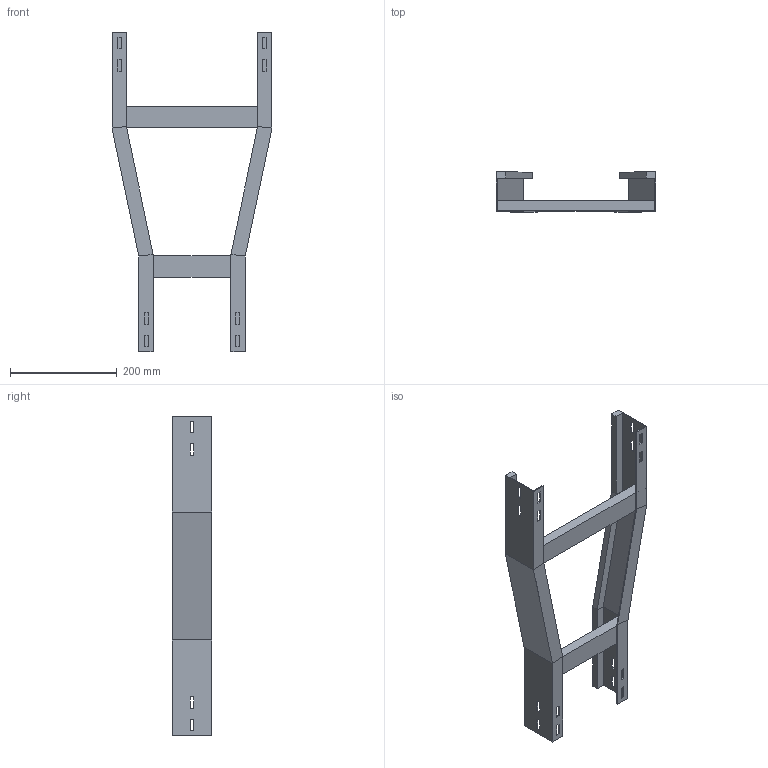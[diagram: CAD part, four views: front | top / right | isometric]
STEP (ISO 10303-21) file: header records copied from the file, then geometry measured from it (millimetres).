
FILE_DESCRIPTION (( 'STEP AP214' ), '1' );
FILE_NAME ('B2X20B2C300XX.step', '2025-09-02T17:13:50', ( '' ), ( '' ), 'SwSTEP 2.0', 'SolidWorks 2023', '' );
FILE_SCHEMA (( 'AUTOMOTIVE_DESIGN' ));
Length unit declared in the file: millimetre
Products named in the file (4): B2X20B2C300XX; SPONDA RID. CENTRALE 300-200_H75; TRAVERSINO_300; TRAVERSINO_200
Assembly tree (3 placements, depth 2):
  B2X20B2C300XX
    SPONDA RID. CENTRALE 300-200_H75
    TRAVERSINO_200
    TRAVERSINO_300
Bounding box: 300 x 75 x 600 mm (x, y, z)
Volume: 868032 mm3; surface area: 346900.2 mm2
Topology: 4 solids, 4 shells, 128 faces, 328 edges, 208 vertices
Faces by surface type: plane 128
Entity records: 3950 total; most frequent: CARTESIAN_POINT 670, ORIENTED_EDGE 656, DIRECTION 596, EDGE_CURVE 328, LINE 328, VECTOR 328, VERTEX_POINT 208, EDGE_LOOP 160
